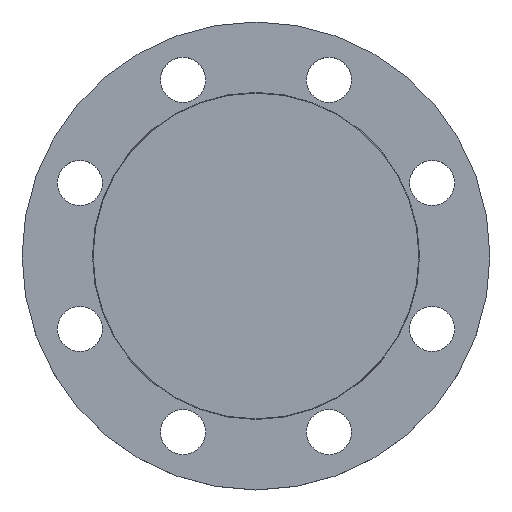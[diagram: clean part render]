
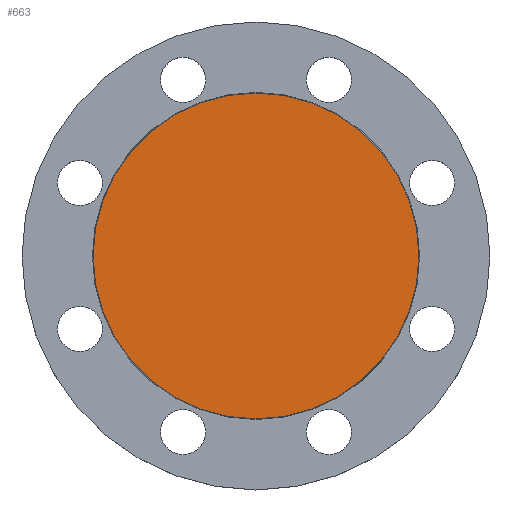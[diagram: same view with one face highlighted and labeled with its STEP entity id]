
A CAD part, top view. The second image highlights one B-rep face of the part: STEP entity #663.
In plain terms, the highlighted planar face has unit normal (0, 0, 1).
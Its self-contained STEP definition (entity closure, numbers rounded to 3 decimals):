
#38 = VERTEX_POINT ( 'NONE', #778 ) ;
#72 = DIRECTION ( 'NONE',  ( 1., 0., 0. ) ) ;
#115 = DIRECTION ( 'NONE',  ( 0., 0., -1. ) ) ;
#135 = PLANE ( 'NONE',  #230 ) ;
#152 = AXIS2_PLACEMENT_3D ( 'NONE', #262, #504, #762 ) ;
#223 = EDGE_LOOP ( 'NONE', ( #425, #672 ) ) ;
#230 = AXIS2_PLACEMENT_3D ( 'NONE', #384, #627, #72 ) ;
#262 = CARTESIAN_POINT ( 'NONE',  ( 0., 0., 0. ) ) ;
#269 = CARTESIAN_POINT ( 'NONE',  ( 94., 0., 0. ) ) ;
#274 = EDGE_CURVE ( 'NONE', #38, #558, #388, .T. ) ;
#364 = DIRECTION ( 'NONE',  ( -1., 0., 0. ) ) ;
#384 = CARTESIAN_POINT ( 'NONE',  ( 0., 0., 0. ) ) ;
#388 = CIRCLE ( 'NONE', #488, 94. ) ;
#425 = ORIENTED_EDGE ( 'NONE', *, *, #274, .F. ) ;
#488 = AXIS2_PLACEMENT_3D ( 'NONE', #671, #115, #364 ) ;
#495 = EDGE_CURVE ( 'NONE', #558, #38, #499, .T. ) ;
#499 = CIRCLE ( 'NONE', #152, 94. ) ;
#504 = DIRECTION ( 'NONE',  ( 0., 0., -1. ) ) ;
#558 = VERTEX_POINT ( 'NONE', #269 ) ;
#627 = DIRECTION ( 'NONE',  ( 0., 0., 1. ) ) ;
#663 = ADVANCED_FACE ( 'NONE', ( #696 ), #135, .T. ) ;
#671 = CARTESIAN_POINT ( 'NONE',  ( 0., 0., 0. ) ) ;
#672 = ORIENTED_EDGE ( 'NONE', *, *, #495, .F. ) ;
#696 = FACE_OUTER_BOUND ( 'NONE', #223, .T. ) ;
#762 = DIRECTION ( 'NONE',  ( -1., 0., 0. ) ) ;
#778 = CARTESIAN_POINT ( 'NONE',  ( -94., 0., 0. ) ) ;
